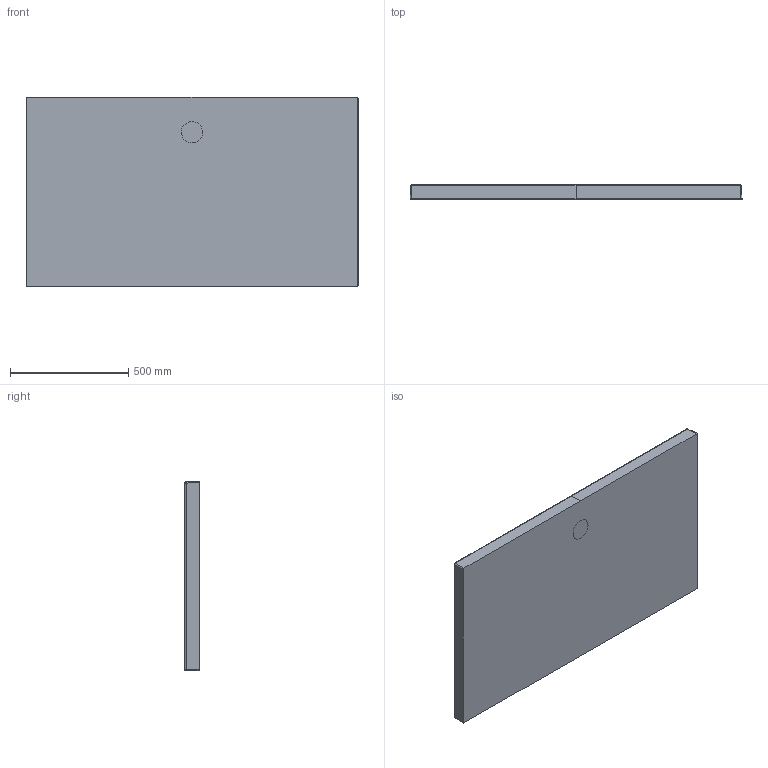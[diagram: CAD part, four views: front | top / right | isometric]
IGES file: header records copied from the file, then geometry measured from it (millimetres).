
Start section: START RECORD GO HERE.
Global section: file name: 1025_Piatto doccia h6 80x140 LISCIO.igs; native system: DASSAULT SYSTEMES CATIA V5 R19 - www.3ds.com; preprocessor: CATIA Version 5 Release 19 SP 5 ; author: gioge; organization: LAPTOP-G94B6G74; date: 20200701.110925; units: millimetre
Bounding box: 1406.29 x 60 x 803.14 mm (x, y, z)
Surface area: 2541292.3 mm2 (no closed solid volume)
Topology: 0 solids, 0 shells, 79 faces, 352 edges, 349 vertices
Faces by surface type: bspline 54, revolution 18, extrusion 4, plane 3
